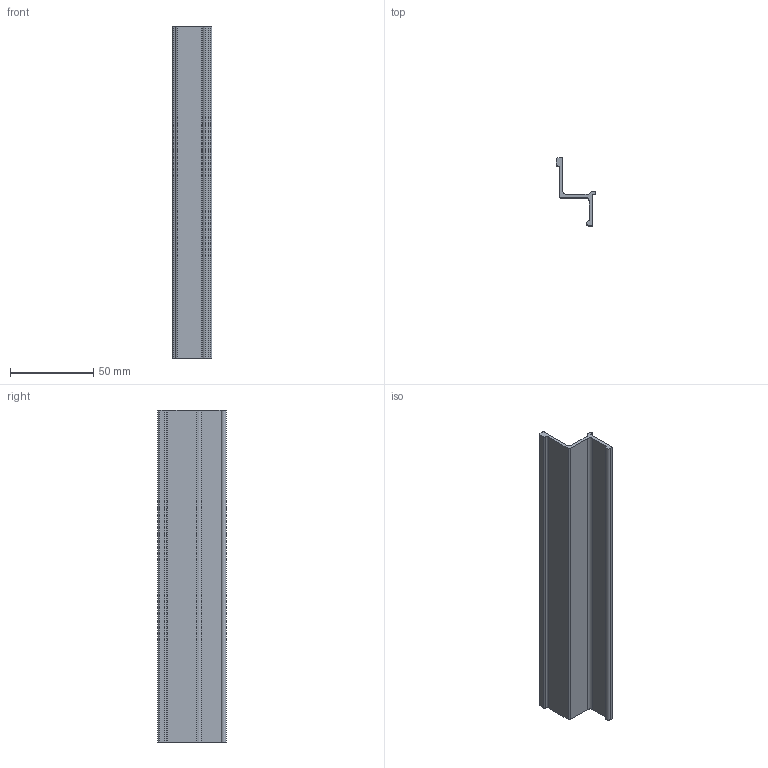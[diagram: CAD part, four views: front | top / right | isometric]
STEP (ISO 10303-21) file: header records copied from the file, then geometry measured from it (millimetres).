
FILE_DESCRIPTION((''),'2;1');
FILE_NAME('C:\Vault Klient\Projekt\Step\300-3050.stp','2009-12-08T07:55:28',('Mathias'),(''),'Autodesk Inventor 2010','Autodesk Inventor 2010','');
FILE_SCHEMA(('CONFIG_CONTROL_DESIGN'));
Length unit declared in the file: millimetre
Products named in the file (1): 300-3050
Bounding box: 23.75 x 41 x 200 mm (x, y, z)
Volume: 27381.4 mm3; surface area: 26036.8 mm2
Topology: 1 solids, 1 shells, 26 faces, 72 edges, 48 vertices
Faces by surface type: plane 14, cylinder 12
Entity records: 866 total; most frequent: DIRECTION 150, CARTESIAN_POINT 147, ORIENTED_EDGE 144, EDGE_CURVE 72, AXIS2_PLACEMENT_3D 51, VERTEX_POINT 48, VECTOR 48, LINE 48
